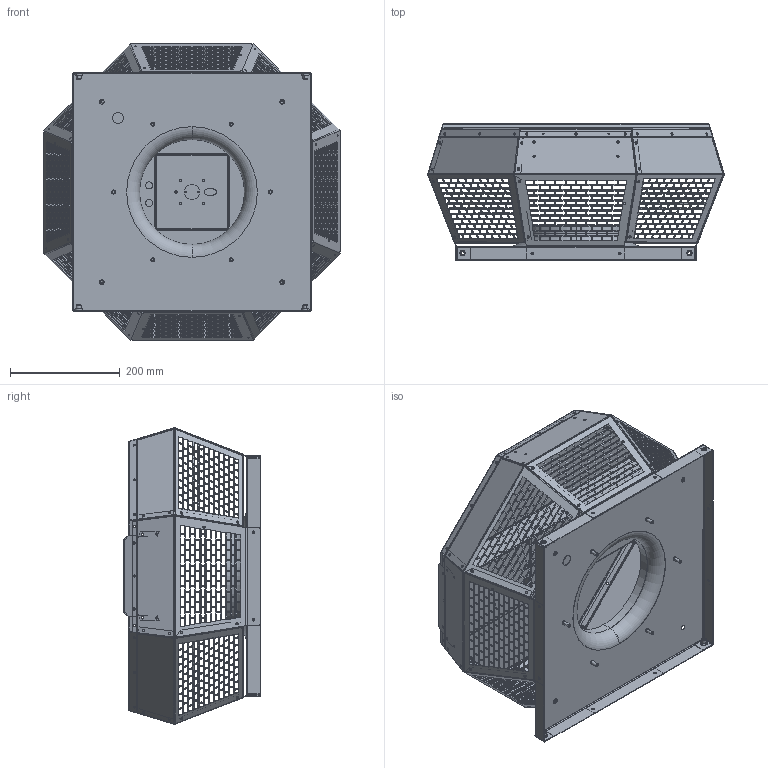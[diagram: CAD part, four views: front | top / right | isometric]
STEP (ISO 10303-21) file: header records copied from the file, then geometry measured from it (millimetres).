
FILE_DESCRIPTION (( 'STEP AP203' ), '1' );
FILE_NAME ('130107-00_DHA280E4P30.STEP', '2015-02-20T08:22:37', ( '' ), ( '' ), 'SwSTEP 2.0', 'SolidWorks 2012', '' );
FILE_SCHEMA (( 'CONFIG_CONTROL_DESIGN' ));
Products named in the file (1): 130107-00_DHA280E4P30
Bounding box: 540.89 x 248.6 x 540.89 mm (x, y, z)
Surface area: 1720175.3 mm2 (no closed solid volume)
Topology: 0 solids, 47 shells, 3521 faces, 13380 edges, 9265 vertices
Faces by surface type: plane 2907, cylinder 538, torus 28, bspline 28, cone 20
Entity records: 142479 total; most frequent: CARTESIAN_POINT 27694, ORIENTED_EDGE 22301, DIRECTION 21347, EDGE_CURVE 13380, LINE 11831, VECTOR 11831, VERTEX_POINT 9265, EDGE_LOOP 5677
